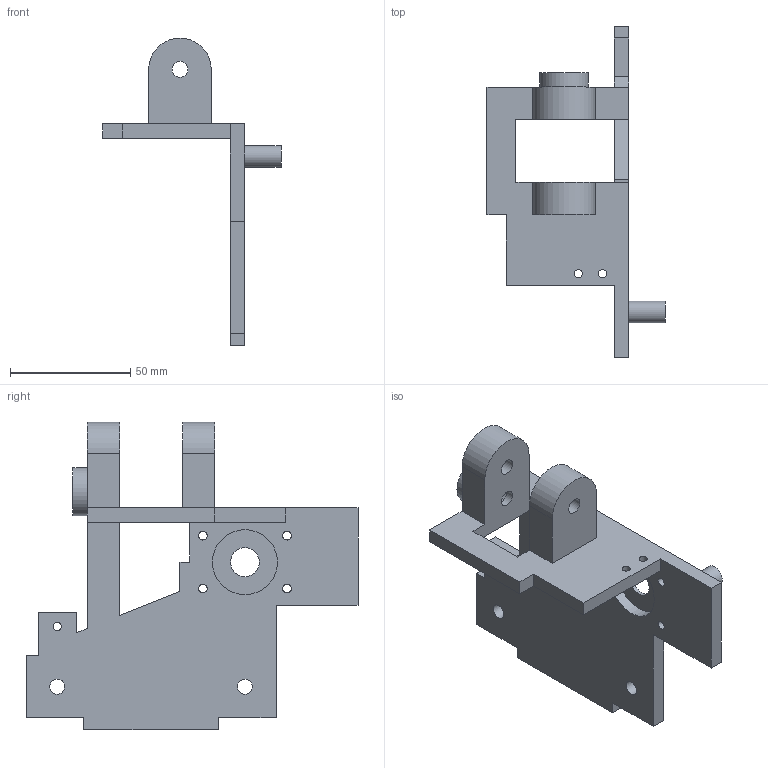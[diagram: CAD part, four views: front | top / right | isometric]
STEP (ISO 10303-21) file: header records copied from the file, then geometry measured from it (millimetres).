
FILE_DESCRIPTION(('Open CASCADE Model'),'2;1');
FILE_NAME('Open CASCADE Shape Model','2026-10-17T22:10:42',('Author'),( 'Open CASCADE'),'Open CASCADE STEP processor 7.9','Open CASCADE 7.9' ,'Unknown');
FILE_SCHEMA(('AUTOMOTIVE_DESIGN { 1 0 10303 214 1 1 1 1 }'));
Length unit declared in the file: millimetre
Products named in the file (1): Open CASCADE STEP translator 7.9 7
Bounding box: 74 x 138 x 128 mm (x, y, z)
Volume: 88569.9 mm3; surface area: 35378.8 mm2
Topology: 1 solids, 1 shells, 61 faces, 168 edges, 112 vertices
Faces by surface type: plane 41, cylinder 20
Full cylindrical faces by diameter (mm): 3.4 x3, 3.6 x4, 4 x1, 6.2 x2, 6.6 x3, 9 x1, 11.2 x1, 12 x1, 20 x1, 27 x1
Entity records: 4243 total; most frequent: CARTESIAN_POINT 879, DIRECTION 607, LINE 391, VECTOR 391, ORIENTED_EDGE 336, PCURVE 336, DEFINITIONAL_REPRESENTATION 336, EDGE_CURVE 168
